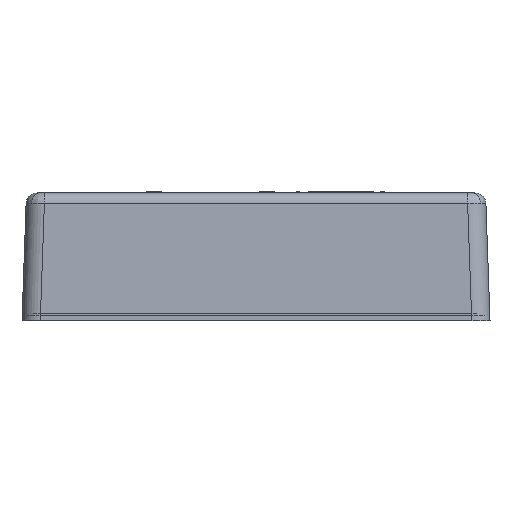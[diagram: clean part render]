
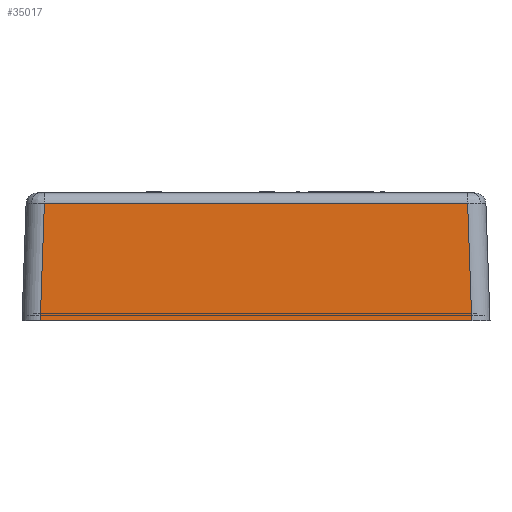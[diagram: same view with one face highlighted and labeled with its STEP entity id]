
A CAD part, left-side view. The second image highlights one B-rep face of the part: STEP entity #35017.
In plain terms, the highlighted planar face has unit normal (-0.999, 0, 0.035).
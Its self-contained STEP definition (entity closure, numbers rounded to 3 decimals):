
#567=PLANE('',#37814);
#1859=LINE('',#56903,#4265);
#1905=LINE('',#57160,#4311);
#1908=LINE('',#57240,#4314);
#1909=LINE('',#57242,#4315);
#4265=VECTOR('',#42847,1000.);
#4311=VECTOR('',#42977,1000.);
#4314=VECTOR('',#42982,1000.);
#4315=VECTOR('',#42985,1000.);
#7846=FACE_OUTER_BOUND('',#10149,.T.);
#10149=EDGE_LOOP('',(#25074,#25075,#25076,#25077));
#14736=VERTEX_POINT('',#52091);
#15815=VERTEX_POINT('',#56900);
#15816=VERTEX_POINT('',#56902);
#15878=VERTEX_POINT('',#57202);
#19271=EDGE_CURVE('',#15816,#15815,#1859,.T.);
#19352=EDGE_CURVE('',#14736,#15816,#1905,.T.);
#19357=EDGE_CURVE('',#15815,#15878,#1908,.T.);
#19358=EDGE_CURVE('',#15878,#14736,#1909,.T.);
#25074=ORIENTED_EDGE('',*,*,#19357,.T.);
#25075=ORIENTED_EDGE('',*,*,#19358,.T.);
#25076=ORIENTED_EDGE('',*,*,#19352,.T.);
#25077=ORIENTED_EDGE('',*,*,#19271,.T.);
#35017=ADVANCED_FACE('',(#7846),#567,.T.);
#37814=AXIS2_PLACEMENT_3D('',#57241,#42983,#42984);
#42847=DIRECTION('',(0.,-1.,0.));
#42977=DIRECTION('',(-0.035,0.035,-0.999));
#42982=DIRECTION('',(0.035,0.035,0.999));
#42983=DIRECTION('center_axis',(-0.999,0.,0.035));
#42984=DIRECTION('ref_axis',(0.035,0.,0.999));
#42985=DIRECTION('',(0.,1.,0.));
#52091=CARTESIAN_POINT('',(-183.879,57.882,32.105));
#56900=CARTESIAN_POINT('',(-185.,-59.003,0.));
#56902=CARTESIAN_POINT('',(-185.,59.003,0.));
#56903=CARTESIAN_POINT('',(-185.,-64.,0.));
#57160=CARTESIAN_POINT('',(-184.85,58.853,4.285));
#57202=CARTESIAN_POINT('',(-183.879,-57.882,32.105));
#57240=CARTESIAN_POINT('',(-185.006,-59.009,-0.174));
#57241=CARTESIAN_POINT('Origin',(-185.,-64.,0.));
#57242=CARTESIAN_POINT('',(-183.879,-64.,32.105));
